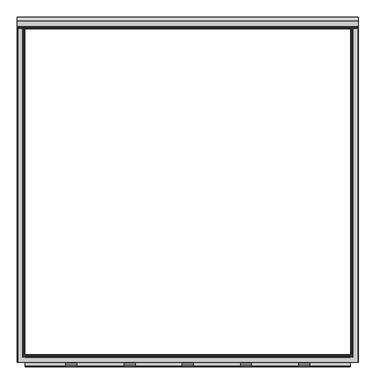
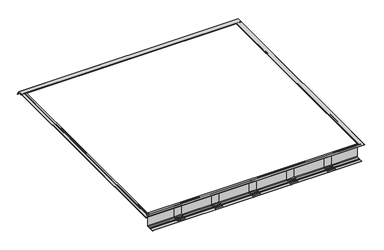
"""IFC4 building model written with IfcOpenShell, lengths in millimetres: fastener geometry."""

from ifc_helpers import new_model, si_unit, point, frame, frame_2d, origin, place, context, project, spatial, polyline, circle_curve, ellipse_curve, trimmed, segment, composite_curve, outline, extrude, source, transform, mapped, element, save
from ifc_brep_helpers import plane_surface, cylinder_surface, revolved_surface, advanced_brep


def fastener_7d932c26(model_context):
    return source(origin(), model_context, "Body", "SolidModel", [
        extrude(outline(composite_curve([segment(trimmed(circle_curve(frame_2d((-1145.5700599, -157.3625171)), 7.5509517), [point((-1138.0191082, -157.3625171))], [point((-1145.5700599, -164.9134688))], False, "CARTESIAN"), True, "CONTINUOUS"), segment(polyline([(-1145.5700599, -164.9134688), (-1177.5500422, -164.9134688)]), True, "CONTINUOUS"), segment(trimmed(circle_curve(frame_2d((-1177.2863618, -163.8574024)), 1.0884868), [point((-1177.5500422, -164.9134688))], [point((-1178.0560382, -163.0877259))], False, "CARTESIAN"), True, "CONTINUOUS"), segment(polyline([(-1178.0560382, -163.0877259), (-1176.7465916, -161.7782793)]), True, "CONTINUOUS"), segment(trimmed(circle_curve(frame_2d((-1177.516268, -161.0086029)), 1.0884868), [point((-1176.7465916, -161.7782793))], [point((-1176.911598, -160.1035184))], True, "CARTESIAN"), True, "CONTINUOUS"), segment(polyline([(-1176.911598, -160.1035184), (-1186.4250513, -160.1035184)]), True, "CONTINUOUS"), segment(trimmed(circle_curve(frame_2d((-1185.8203813, -161.0086029)), 1.0884868), [point((-1186.4250513, -160.1035184))], [point((-1186.5900578, -161.7782793))], True, "CARTESIAN"), True, "CONTINUOUS"), segment(polyline([(-1186.5900578, -161.7782793), (-1185.2806111, -163.0877259)]), True, "CONTINUOUS"), segment(trimmed(circle_curve(frame_2d((-1186.0502876, -163.8574024)), 1.0884868), [point((-1185.2806111, -163.0877259))], [point((-1185.7866071, -164.9134688))], False, "CARTESIAN"), True, "CONTINUOUS"), segment(polyline([(-1185.7866071, -164.9134688), (-1219.2, -164.9134688)]), True, "CONTINUOUS"), segment(trimmed(circle_curve(frame_2d((-1211.6858077, -164.181073)), 7.5498006), [point((-1219.2, -164.9134688))], [point((-1211.6858077, -156.6312724))], False, "CARTESIAN"), True, "CONTINUOUS"), segment(polyline([(-1211.6858077, -156.6312724), (-1195.9627839, -156.6312724)]), True, "CONTINUOUS"), segment(trimmed(circle_curve(frame_2d((-1195.8562589, -152.6549)), 3.977799), [point((-1195.9627839, -156.6312724))], [point((-1193.0435303, -155.4676287))], True, "CARTESIAN"), True, "CONTINUOUS"), segment(polyline([(-1193.0435303, -155.4676287), (-1190.9210407, -153.3451392)]), True, "CONTINUOUS"), segment(trimmed(circle_curve(frame_2d((-1188.1083121, -156.1578678)), 3.977799), [point((-1190.9210407, -153.3451392))], [point((-1188.0183247, -152.1810868))], False, "CARTESIAN"), True, "CONTINUOUS"), segment(polyline([(-1188.0183247, -152.1810868), (-1175.3183247, -152.1810868)]), True, "CONTINUOUS"), segment(trimmed(circle_curve(frame_2d((-1175.2283372, -156.1578678)), 3.977799), [point((-1175.3183247, -152.1810868))], [point((-1172.4156086, -153.3451392))], False, "CARTESIAN"), True, "CONTINUOUS"), segment(polyline([(-1172.4156086, -153.3451392), (-1170.2931191, -155.4676287)]), True, "CONTINUOUS"), segment(trimmed(circle_curve(frame_2d((-1167.4803904, -152.6549)), 3.977799), [point((-1170.2931191, -155.4676287))], [point((-1167.3738655, -156.6312724))], True, "CARTESIAN"), True, "CONTINUOUS"), segment(polyline([(-1167.3738655, -156.6312724), (-1150.9842926, -156.6312724)]), True, "CONTINUOUS"), segment(trimmed(circle_curve(frame_2d((-1150.2040874, -150.8486898)), 5.8349791), [point((-1150.9842926, -156.6312724))], [point((-1144.3691082, -150.8486898))], True, "CARTESIAN"), True, "CONTINUOUS"), segment(polyline([(-1144.3691082, -150.8486898), (-1144.3691082, -41.4750171), (-1138.0191082, -41.4750171), (-1138.0191082, -157.3625171)]), True, "CONTINUOUS")], self_intersect=False)), frame((774.7, 0.0, 0.0), z_axis=(1.0, 0.0, 0.0), x_axis=(0.0, 1.0, 0.0)), (0.0, 0.0, 1.0), 76.2),
        extrude(outline(composite_curve([segment(trimmed(circle_curve(frame_2d((-1145.5700599, -157.3625171)), 7.5509517), [point((-1138.0191082, -157.3625171))], [point((-1145.5700599, -164.9134688))], False, "CARTESIAN"), True, "CONTINUOUS"), segment(polyline([(-1145.5700599, -164.9134688), (-1177.5500422, -164.9134688)]), True, "CONTINUOUS"), segment(trimmed(circle_curve(frame_2d((-1177.2863618, -163.8574024)), 1.0884868), [point((-1177.5500422, -164.9134688))], [point((-1178.0560382, -163.0877259))], False, "CARTESIAN"), True, "CONTINUOUS"), segment(polyline([(-1178.0560382, -163.0877259), (-1176.7465916, -161.7782793)]), True, "CONTINUOUS"), segment(trimmed(circle_curve(frame_2d((-1177.516268, -161.0086029)), 1.0884868), [point((-1176.7465916, -161.7782793))], [point((-1176.911598, -160.1035184))], True, "CARTESIAN"), True, "CONTINUOUS"), segment(polyline([(-1176.911598, -160.1035184), (-1186.4250513, -160.1035184)]), True, "CONTINUOUS"), segment(trimmed(circle_curve(frame_2d((-1185.8203813, -161.0086029)), 1.0884868), [point((-1186.4250513, -160.1035184))], [point((-1186.5900578, -161.7782793))], True, "CARTESIAN"), True, "CONTINUOUS"), segment(polyline([(-1186.5900578, -161.7782793), (-1185.2806111, -163.0877259)]), True, "CONTINUOUS"), segment(trimmed(circle_curve(frame_2d((-1186.0502876, -163.8574024)), 1.0884868), [point((-1185.2806111, -163.0877259))], [point((-1185.7866071, -164.9134688))], False, "CARTESIAN"), True, "CONTINUOUS"), segment(polyline([(-1185.7866071, -164.9134688), (-1219.2, -164.9134688)]), True, "CONTINUOUS"), segment(trimmed(circle_curve(frame_2d((-1211.6858077, -164.181073)), 7.5498006), [point((-1219.2, -164.9134688))], [point((-1211.6858077, -156.6312724))], False, "CARTESIAN"), True, "CONTINUOUS"), segment(polyline([(-1211.6858077, -156.6312724), (-1195.9627839, -156.6312724)]), True, "CONTINUOUS"), segment(trimmed(circle_curve(frame_2d((-1195.8562589, -152.6549)), 3.977799), [point((-1195.9627839, -156.6312724))], [point((-1193.0435303, -155.4676287))], True, "CARTESIAN"), True, "CONTINUOUS"), segment(polyline([(-1193.0435303, -155.4676287), (-1190.9210407, -153.3451392)]), True, "CONTINUOUS"), segment(trimmed(circle_curve(frame_2d((-1188.1083121, -156.1578678)), 3.977799), [point((-1190.9210407, -153.3451392))], [point((-1188.0183247, -152.1810868))], False, "CARTESIAN"), True, "CONTINUOUS"), segment(polyline([(-1188.0183247, -152.1810868), (-1175.3183247, -152.1810868)]), True, "CONTINUOUS"), segment(trimmed(circle_curve(frame_2d((-1175.2283372, -156.1578678)), 3.977799), [point((-1175.3183247, -152.1810868))], [point((-1172.4156086, -153.3451392))], False, "CARTESIAN"), True, "CONTINUOUS"), segment(polyline([(-1172.4156086, -153.3451392), (-1170.2931191, -155.4676287)]), True, "CONTINUOUS"), segment(trimmed(circle_curve(frame_2d((-1167.4803904, -152.6549)), 3.977799), [point((-1170.2931191, -155.4676287))], [point((-1167.3738655, -156.6312724))], True, "CARTESIAN"), True, "CONTINUOUS"), segment(polyline([(-1167.3738655, -156.6312724), (-1150.9842926, -156.6312724)]), True, "CONTINUOUS"), segment(trimmed(circle_curve(frame_2d((-1150.2040874, -150.8486898)), 5.8349791), [point((-1150.9842926, -156.6312724))], [point((-1144.3691082, -150.8486898))], True, "CARTESIAN"), True, "CONTINUOUS"), segment(polyline([(-1144.3691082, -150.8486898), (-1144.3691082, -41.4750171), (-1138.0191082, -41.4750171), (-1138.0191082, -157.3625171)]), True, "CONTINUOUS")], self_intersect=False)), frame((-850.9, 0.0, 0.0), z_axis=(1.0, 0.0, 0.0), x_axis=(0.0, 1.0, 0.0)), (0.0, 0.0, 1.0), 76.2),
        extrude(outline(composite_curve([segment(trimmed(circle_curve(frame_2d((-1145.5700599, -157.3625171)), 7.5509517), [point((-1138.0191082, -157.3625171))], [point((-1145.5700599, -164.9134688))], False, "CARTESIAN"), True, "CONTINUOUS"), segment(polyline([(-1145.5700599, -164.9134688), (-1177.5500422, -164.9134688)]), True, "CONTINUOUS"), segment(trimmed(circle_curve(frame_2d((-1177.2863618, -163.8574024)), 1.0884868), [point((-1177.5500422, -164.9134688))], [point((-1178.0560382, -163.0877259))], False, "CARTESIAN"), True, "CONTINUOUS"), segment(polyline([(-1178.0560382, -163.0877259), (-1176.7465916, -161.7782793)]), True, "CONTINUOUS"), segment(trimmed(circle_curve(frame_2d((-1177.516268, -161.0086029)), 1.0884868), [point((-1176.7465916, -161.7782793))], [point((-1176.911598, -160.1035184))], True, "CARTESIAN"), True, "CONTINUOUS"), segment(polyline([(-1176.911598, -160.1035184), (-1186.4250513, -160.1035184)]), True, "CONTINUOUS"), segment(trimmed(circle_curve(frame_2d((-1185.8203813, -161.0086029)), 1.0884868), [point((-1186.4250513, -160.1035184))], [point((-1186.5900578, -161.7782793))], True, "CARTESIAN"), True, "CONTINUOUS"), segment(polyline([(-1186.5900578, -161.7782793), (-1185.2806111, -163.0877259)]), True, "CONTINUOUS"), segment(trimmed(circle_curve(frame_2d((-1186.0502876, -163.8574024)), 1.0884868), [point((-1185.2806111, -163.0877259))], [point((-1185.7866071, -164.9134688))], False, "CARTESIAN"), True, "CONTINUOUS"), segment(polyline([(-1185.7866071, -164.9134688), (-1219.2, -164.9134688)]), True, "CONTINUOUS"), segment(trimmed(circle_curve(frame_2d((-1211.6858077, -164.181073)), 7.5498006), [point((-1219.2, -164.9134688))], [point((-1211.6858077, -156.6312724))], False, "CARTESIAN"), True, "CONTINUOUS"), segment(polyline([(-1211.6858077, -156.6312724), (-1195.9627839, -156.6312724)]), True, "CONTINUOUS"), segment(trimmed(circle_curve(frame_2d((-1195.8562589, -152.6549)), 3.977799), [point((-1195.9627839, -156.6312724))], [point((-1193.0435303, -155.4676287))], True, "CARTESIAN"), True, "CONTINUOUS"), segment(polyline([(-1193.0435303, -155.4676287), (-1190.9210407, -153.3451392)]), True, "CONTINUOUS"), segment(trimmed(circle_curve(frame_2d((-1188.1083121, -156.1578678)), 3.977799), [point((-1190.9210407, -153.3451392))], [point((-1188.0183247, -152.1810868))], False, "CARTESIAN"), True, "CONTINUOUS"), segment(polyline([(-1188.0183247, -152.1810868), (-1175.3183247, -152.1810868)]), True, "CONTINUOUS"), segment(trimmed(circle_curve(frame_2d((-1175.2283372, -156.1578678)), 3.977799), [point((-1175.3183247, -152.1810868))], [point((-1172.4156086, -153.3451392))], False, "CARTESIAN"), True, "CONTINUOUS"), segment(polyline([(-1172.4156086, -153.3451392), (-1170.2931191, -155.4676287)]), True, "CONTINUOUS"), segment(trimmed(circle_curve(frame_2d((-1167.4803904, -152.6549)), 3.977799), [point((-1170.2931191, -155.4676287))], [point((-1167.3738655, -156.6312724))], True, "CARTESIAN"), True, "CONTINUOUS"), segment(polyline([(-1167.3738655, -156.6312724), (-1150.9842926, -156.6312724)]), True, "CONTINUOUS"), segment(trimmed(circle_curve(frame_2d((-1150.2040874, -150.8486898)), 5.8349791), [point((-1150.9842926, -156.6312724))], [point((-1144.3691082, -150.8486898))], True, "CARTESIAN"), True, "CONTINUOUS"), segment(polyline([(-1144.3691082, -150.8486898), (-1144.3691082, -41.4750171), (-1138.0191082, -41.4750171), (-1138.0191082, -157.3625171)]), True, "CONTINUOUS")], self_intersect=False)), frame((-444.5, 0.0, 0.0), z_axis=(1.0, 0.0, 0.0), x_axis=(0.0, 1.0, 0.0)), (0.0, 0.0, 1.0), 76.2),
        extrude(outline(composite_curve([segment(trimmed(circle_curve(frame_2d((-1145.5700599, -157.3625171)), 7.5509517), [point((-1138.0191082, -157.3625171))], [point((-1145.5700599, -164.9134688))], False, "CARTESIAN"), True, "CONTINUOUS"), segment(polyline([(-1145.5700599, -164.9134688), (-1177.5500422, -164.9134688)]), True, "CONTINUOUS"), segment(trimmed(circle_curve(frame_2d((-1177.2863618, -163.8574024)), 1.0884868), [point((-1177.5500422, -164.9134688))], [point((-1178.0560382, -163.0877259))], False, "CARTESIAN"), True, "CONTINUOUS"), segment(polyline([(-1178.0560382, -163.0877259), (-1176.7465916, -161.7782793)]), True, "CONTINUOUS"), segment(trimmed(circle_curve(frame_2d((-1177.516268, -161.0086029)), 1.0884868), [point((-1176.7465916, -161.7782793))], [point((-1176.911598, -160.1035184))], True, "CARTESIAN"), True, "CONTINUOUS"), segment(polyline([(-1176.911598, -160.1035184), (-1186.4250513, -160.1035184)]), True, "CONTINUOUS"), segment(trimmed(circle_curve(frame_2d((-1185.8203813, -161.0086029)), 1.0884868), [point((-1186.4250513, -160.1035184))], [point((-1186.5900578, -161.7782793))], True, "CARTESIAN"), True, "CONTINUOUS"), segment(polyline([(-1186.5900578, -161.7782793), (-1185.2806111, -163.0877259)]), True, "CONTINUOUS"), segment(trimmed(circle_curve(frame_2d((-1186.0502876, -163.8574024)), 1.0884868), [point((-1185.2806111, -163.0877259))], [point((-1185.7866071, -164.9134688))], False, "CARTESIAN"), True, "CONTINUOUS"), segment(polyline([(-1185.7866071, -164.9134688), (-1219.2, -164.9134688)]), True, "CONTINUOUS"), segment(trimmed(circle_curve(frame_2d((-1211.6858077, -164.181073)), 7.5498006), [point((-1219.2, -164.9134688))], [point((-1211.6858077, -156.6312724))], False, "CARTESIAN"), True, "CONTINUOUS"), segment(polyline([(-1211.6858077, -156.6312724), (-1195.9627839, -156.6312724)]), True, "CONTINUOUS"), segment(trimmed(circle_curve(frame_2d((-1195.8562589, -152.6549)), 3.977799), [point((-1195.9627839, -156.6312724))], [point((-1193.0435303, -155.4676287))], True, "CARTESIAN"), True, "CONTINUOUS"), segment(polyline([(-1193.0435303, -155.4676287), (-1190.9210407, -153.3451392)]), True, "CONTINUOUS"), segment(trimmed(circle_curve(frame_2d((-1188.1083121, -156.1578678)), 3.977799), [point((-1190.9210407, -153.3451392))], [point((-1188.0183247, -152.1810868))], False, "CARTESIAN"), True, "CONTINUOUS"), segment(polyline([(-1188.0183247, -152.1810868), (-1175.3183247, -152.1810868)]), True, "CONTINUOUS"), segment(trimmed(circle_curve(frame_2d((-1175.2283372, -156.1578678)), 3.977799), [point((-1175.3183247, -152.1810868))], [point((-1172.4156086, -153.3451392))], False, "CARTESIAN"), True, "CONTINUOUS"), segment(polyline([(-1172.4156086, -153.3451392), (-1170.2931191, -155.4676287)]), True, "CONTINUOUS"), segment(trimmed(circle_curve(frame_2d((-1167.4803904, -152.6549)), 3.977799), [point((-1170.2931191, -155.4676287))], [point((-1167.3738655, -156.6312724))], True, "CARTESIAN"), True, "CONTINUOUS"), segment(polyline([(-1167.3738655, -156.6312724), (-1150.9842926, -156.6312724)]), True, "CONTINUOUS"), segment(trimmed(circle_curve(frame_2d((-1150.2040874, -150.8486898)), 5.8349791), [point((-1150.9842926, -156.6312724))], [point((-1144.3691082, -150.8486898))], True, "CARTESIAN"), True, "CONTINUOUS"), segment(polyline([(-1144.3691082, -150.8486898), (-1144.3691082, -41.4750171), (-1138.0191082, -41.4750171), (-1138.0191082, -157.3625171)]), True, "CONTINUOUS")], self_intersect=False)), frame((368.3, 0.0, 0.0), z_axis=(1.0, 0.0, 0.0), x_axis=(0.0, 1.0, 0.0)), (0.0, 0.0, 1.0), 76.2),
        extrude(outline(composite_curve([segment(trimmed(circle_curve(frame_2d((-1145.5700599, -157.3625171)), 7.5509517), [point((-1138.0191082, -157.3625171))], [point((-1145.5700599, -164.9134688))], False, "CARTESIAN"), True, "CONTINUOUS"), segment(polyline([(-1145.5700599, -164.9134688), (-1177.5500422, -164.9134688)]), True, "CONTINUOUS"), segment(trimmed(circle_curve(frame_2d((-1177.2863618, -163.8574024)), 1.0884868), [point((-1177.5500422, -164.9134688))], [point((-1178.0560382, -163.0877259))], False, "CARTESIAN"), True, "CONTINUOUS"), segment(polyline([(-1178.0560382, -163.0877259), (-1176.7465916, -161.7782793)]), True, "CONTINUOUS"), segment(trimmed(circle_curve(frame_2d((-1177.516268, -161.0086029)), 1.0884868), [point((-1176.7465916, -161.7782793))], [point((-1176.911598, -160.1035184))], True, "CARTESIAN"), True, "CONTINUOUS"), segment(polyline([(-1176.911598, -160.1035184), (-1186.4250513, -160.1035184)]), True, "CONTINUOUS"), segment(trimmed(circle_curve(frame_2d((-1185.8203813, -161.0086029)), 1.0884868), [point((-1186.4250513, -160.1035184))], [point((-1186.5900578, -161.7782793))], True, "CARTESIAN"), True, "CONTINUOUS"), segment(polyline([(-1186.5900578, -161.7782793), (-1185.2806111, -163.0877259)]), True, "CONTINUOUS"), segment(trimmed(circle_curve(frame_2d((-1186.0502876, -163.8574024)), 1.0884868), [point((-1185.2806111, -163.0877259))], [point((-1185.7866071, -164.9134688))], False, "CARTESIAN"), True, "CONTINUOUS"), segment(polyline([(-1185.7866071, -164.9134688), (-1219.2, -164.9134688)]), True, "CONTINUOUS"), segment(trimmed(circle_curve(frame_2d((-1211.6858077, -164.181073)), 7.5498006), [point((-1219.2, -164.9134688))], [point((-1211.6858077, -156.6312724))], False, "CARTESIAN"), True, "CONTINUOUS"), segment(polyline([(-1211.6858077, -156.6312724), (-1195.9627839, -156.6312724)]), True, "CONTINUOUS"), segment(trimmed(circle_curve(frame_2d((-1195.8562589, -152.6549)), 3.977799), [point((-1195.9627839, -156.6312724))], [point((-1193.0435303, -155.4676287))], True, "CARTESIAN"), True, "CONTINUOUS"), segment(polyline([(-1193.0435303, -155.4676287), (-1190.9210407, -153.3451392)]), True, "CONTINUOUS"), segment(trimmed(circle_curve(frame_2d((-1188.1083121, -156.1578678)), 3.977799), [point((-1190.9210407, -153.3451392))], [point((-1188.0183247, -152.1810868))], False, "CARTESIAN"), True, "CONTINUOUS"), segment(polyline([(-1188.0183247, -152.1810868), (-1175.3183247, -152.1810868)]), True, "CONTINUOUS"), segment(trimmed(circle_curve(frame_2d((-1175.2283372, -156.1578678)), 3.977799), [point((-1175.3183247, -152.1810868))], [point((-1172.4156086, -153.3451392))], False, "CARTESIAN"), True, "CONTINUOUS"), segment(polyline([(-1172.4156086, -153.3451392), (-1170.2931191, -155.4676287)]), True, "CONTINUOUS"), segment(trimmed(circle_curve(frame_2d((-1167.4803904, -152.6549)), 3.977799), [point((-1170.2931191, -155.4676287))], [point((-1167.3738655, -156.6312724))], True, "CARTESIAN"), True, "CONTINUOUS"), segment(polyline([(-1167.3738655, -156.6312724), (-1150.9842926, -156.6312724)]), True, "CONTINUOUS"), segment(trimmed(circle_curve(frame_2d((-1150.2040874, -150.8486898)), 5.8349791), [point((-1150.9842926, -156.6312724))], [point((-1144.3691082, -150.8486898))], True, "CARTESIAN"), True, "CONTINUOUS"), segment(polyline([(-1144.3691082, -150.8486898), (-1144.3691082, -41.4750171), (-1138.0191082, -41.4750171), (-1138.0191082, -157.3625171)]), True, "CONTINUOUS")], self_intersect=False)), frame((-38.1, 0.0, 0.0), z_axis=(1.0, 0.0, 0.0), x_axis=(0.0, 1.0, 0.0)), (0.0, 0.0, 1.0), 76.2),
        extrude(outline(composite_curve([segment(polyline([(-1135.3165, -15.1804688), (-1135.3165, -167.5804688), (-1217.8665, -167.5804688)]), True, "CONTINUOUS"), segment(trimmed(circle_curve(frame_2d((-1217.8665, -166.2469688)), 1.3335), [point((-1217.8665, -167.5804688))], [point((-1217.8665, -164.9134688))], False, "CARTESIAN"), True, "CONTINUOUS"), segment(polyline([(-1217.8665, -164.9134688), (-1185.7509989, -164.9134688)]), True, "CONTINUOUS"), segment(trimmed(circle_curve(frame_2d((-1186.0146793, -163.8574024)), 1.0884868), [point((-1185.7509989, -164.9134688))], [point((-1185.2450029, -163.0877259))], True, "CARTESIAN"), True, "CONTINUOUS"), segment(polyline([(-1185.2450029, -163.0877259), (-1186.5544495, -161.7782793)]), True, "CONTINUOUS"), segment(trimmed(circle_curve(frame_2d((-1185.7847731, -161.0086029)), 1.0884868), [point((-1186.5544495, -161.7782793))], [point((-1186.389443, -160.1035184))], False, "CARTESIAN"), True, "CONTINUOUS"), segment(polyline([(-1186.389443, -160.1035184), (-1176.8759898, -160.1035184)]), True, "CONTINUOUS"), segment(trimmed(circle_curve(frame_2d((-1177.4806597, -161.0086029)), 1.0884868), [point((-1176.8759898, -160.1035184))], [point((-1176.7109833, -161.7782793))], False, "CARTESIAN"), True, "CONTINUOUS"), segment(polyline([(-1176.7109833, -161.7782793), (-1178.0204299, -163.0877259)]), True, "CONTINUOUS"), segment(trimmed(circle_curve(frame_2d((-1177.2507535, -163.8574024)), 1.0884868), [point((-1178.0204299, -163.0877259))], [point((-1177.5144339, -164.9134688))], True, "CARTESIAN"), True, "CONTINUOUS"), segment(polyline([(-1177.5144339, -164.9134688), (-1145.5344517, -164.9134688)]), True, "CONTINUOUS"), segment(trimmed(circle_curve(frame_2d((-1145.5344517, -157.3625171)), 7.5509517), [point((-1145.5344517, -164.9134688))], [point((-1137.9835, -157.3625171))], True, "CARTESIAN"), True, "CONTINUOUS"), segment(polyline([(-1137.9835, -157.3625171), (-1137.9835, -21.87801), (-1156.2117258, -21.87801), (-1156.2117258, -15.1804688), (-1152.1178999, -15.1804688)]), True, "CONTINUOUS"), segment(trimmed(circle_curve(frame_2d((-1152.8274757, -16.2725079)), 1.3023238), [point((-1152.1178999, -15.1804688))], [point((-1151.9131963, -17.1999455))], False, "CARTESIAN"), True, "CONTINUOUS"), segment(polyline([(-1151.9131963, -17.1999455), (-1152.9649499, -18.2679836)]), True, "CONTINUOUS"), segment(trimmed(circle_curve(frame_2d((-1152.5091166, -18.6293281)), 0.5816819), [point((-1152.9649499, -18.2679836))], [point((-1152.5091166, -19.21101))], True, "CARTESIAN"), True, "CONTINUOUS"), segment(polyline([(-1152.5091166, -19.21101), (-1140.8594568, -19.21101)]), True, "CONTINUOUS"), segment(trimmed(circle_curve(frame_2d((-1140.8594568, -18.6130003)), 0.5980097), [point((-1140.8594568, -19.21101))], [point((-1140.3710112, -18.2679836))], True, "CARTESIAN"), True, "CONTINUOUS"), segment(polyline([(-1140.3710112, -18.2679836), (-1141.460117, -17.1999455)]), True, "CONTINUOUS"), segment(trimmed(circle_curve(frame_2d((-1140.5022273, -16.284676)), 1.3248664), [point((-1141.460117, -17.1999455))], [point((-1141.2343456, -15.1804688))], False, "CARTESIAN"), True, "CONTINUOUS"), segment(polyline([(-1141.2343456, -15.1804688), (-1135.3165, -15.1804688)]), True, "CONTINUOUS")], self_intersect=False)), frame((-1135.3165, 0.0, 0.0), z_axis=(1.0, 0.0, 0.0), x_axis=(0.0, 1.0, 0.0)), (0.0, 0.0, 1.0), 2270.633),
        advanced_brep(
        [(-1189.1053092, 1141.2343456, -15.1685625), (-1189.1053092, 1135.3165, -15.1685625), (-1189.1053092, 1135.3165, -13.8350625), (-1189.1053092, 1135.3165, -12.5015625), (-1189.1053092, 1190.6451024, -12.5015625), (-1189.1053092, 1217.7515464, -59.4513008), (-1189.1053092, 1215.4418567, -60.7848008), (-1189.1053092, 1189.1053092, -15.1685625), (-1189.1053092, 1161.8308783, -15.1685625), (-1189.1053092, 1159.573508, -17.4259327), (-1189.1053092, 1159.573508, -26.7633474), (-1189.1053092, 1149.6719492, -26.7633474), (-1189.1053092, 1149.6719492, -24.7662067), (-1189.1053092, 1150.5032605, -24.7662067), (-1189.1053092, 1151.5117177, -23.7577495), (-1189.1053092, 1151.5117177, -21.8661038), (-1189.1053092, 1156.2117258, -21.8661038), (-1189.1053092, 1156.2117258, -15.1685625), (-1189.1053092, 1152.1178999, -15.1685625), (-1189.1053092, 1151.9131963, -17.2095918), (-1189.1053092, 1152.9812344, -18.2776299), (-1189.1053092, 1152.5091166, -19.1991038), (-1189.1053092, 1140.8431289, -19.1991038), (-1189.1053092, 1140.3710112, -18.2776299), (-1189.1053092, 1141.4390493, -17.2095918), (1189.1053092, 1141.2343456, -15.1685625), (1189.1053092, 1141.4390493, -17.2095918), (1189.1053092, 1140.3710112, -18.2776299), (1189.1053092, 1140.8431289, -19.1991038), (1189.1053092, 1152.5091166, -19.1991038), (1189.1053092, 1152.9812344, -18.2776299), (1189.1053092, 1151.9131963, -17.2095918), (1189.1053092, 1152.1178999, -15.1685625), (1189.1053092, 1156.2117258, -15.1685625), (1189.1053092, 1156.2117258, -21.8661038), (1189.1053092, 1151.5117177, -21.8661038), (1189.1053092, 1151.5117177, -23.7577495), (1189.1053092, 1150.5032605, -24.7662067), (1189.1053092, 1149.6719492, -24.7662067), (1189.1053092, 1149.6719492, -26.7633474), (1189.1053092, 1159.573508, -26.7633474), (1189.1053092, 1159.573508, -17.4259327), (1189.1053092, 1161.8308783, -15.1685625), (1189.1053092, 1189.1053092, -15.1685625), (1189.1053092, 1215.4418567, -60.7848008), (1189.1053092, 1217.7515464, -59.4513008), (1189.1053092, 1190.6451024, -12.5015625), (1189.1053092, 1135.3165, -12.5015625), (1189.1053092, 1135.3165, -13.8350625), (1189.1053092, 1135.3165, -15.1685625), (1187.7718092, 1135.3165, -15.1685625), (1187.7718092, -1187.7718092, -15.1685625), (-1187.7718092, -1187.7718092, -15.1685625), (-1187.7718092, 1135.3165, -15.1685625), (1135.3165, 1135.3165, -15.1685625), (-1135.3165, 1135.3165, -15.1685625), (-1135.3165, -1135.3165, -15.1685625), (1135.3165, -1135.3165, -15.1685625), (-1141.2160631, 1135.3165, -15.1685625), (-1152.1361825, 1135.3165, -15.1685625), (-1152.1361825, -1152.1361825, -15.1685625), (1152.1361825, -1152.1361825, -15.1685625), (1152.1361825, 1135.3165, -15.1685625), (1141.2160631, 1135.3165, -15.1685625), (1141.2160631, -1141.2160631, -15.1685625), (-1141.2160631, -1141.2160631, -15.1685625), (-1156.2117258, 1135.3165, -15.1685625), (-1161.8308783, 1135.3165, -15.1685625), (-1161.8308783, -1161.8308783, -15.1685625), (1161.8308783, -1161.8308783, -15.1685625), (1161.8308783, 1135.3165, -15.1685625), (1156.2117258, 1135.3165, -15.1685625), (1156.2117258, -1156.2117258, -15.1685625), (-1156.2117258, -1156.2117258, -15.1685625), (-1187.7718092, 1135.3165, -12.5015625), (1187.7718092, 1135.3165, -12.5015625), (1135.3165, 1135.3165, -12.5015625), (-1135.3165, 1135.3165, -12.5015625), (-1187.7718092, -1187.7718092, -12.5015625), (1187.7718092, -1187.7718092, -12.5015625), (1135.3165, -1135.3165, -12.5015625), (-1135.3165, -1135.3165, -12.5015625), (-1141.4390493, 1135.3165, -17.221498), (-1140.3710112, 1135.3165, -18.2895361), (-1140.8431289, 1135.3165, -19.21101), (-1152.5091166, 1135.3165, -19.21101), (-1152.9812344, 1135.3165, -18.2895361), (-1151.9131963, 1135.3165, -17.221498), (-1156.2117258, 1135.3165, -21.87801), (-1151.5117177, 1135.3165, -21.87801), (-1151.5117177, 1135.3165, -23.7696558), (-1150.5032605, 1135.3165, -24.7781129), (-1149.6719492, 1135.3165, -24.7781129), (-1149.6719492, 1135.3165, -26.7633474), (-1159.573508, 1135.3165, -26.7633474), (-1159.573508, 1135.3165, -17.4259327), (-1141.4390493, -1141.4390493, -17.221498), (-1140.3710112, -1140.3710112, -18.2895361), (-1140.8431289, -1140.8431289, -19.21101), (1140.8431289, -1140.8431289, -19.21101), (1140.8431289, 1135.3165, -19.21101), (1152.5091166, 1135.3165, -19.21101), (1152.5091166, -1152.5091166, -19.21101), (-1152.5091166, -1152.5091166, -19.21101), (-1152.9812344, -1152.9812344, -18.2895361), (-1151.9131963, -1151.9131963, -17.221498), (-1156.2117258, -1156.2117258, -21.87801), (1156.2117258, -1156.2117258, -21.87801), (1156.2117258, 1135.3165, -21.87801), (1151.5117177, 1135.3165, -21.87801), (1151.5117177, -1151.5117177, -21.87801), (-1151.5117177, -1151.5117177, -21.87801), (-1151.5117177, -1151.5117177, -23.7696558), (-1150.5032605, -1150.5032605, -24.7781129), (1150.5032605, -1150.5032605, -24.7781129), (1150.5032605, 1135.3165, -24.7781129), (1149.6719492, 1135.3165, -24.7781129), (1149.6719492, -1149.6719492, -24.7781129), (-1149.6719492, -1149.6719492, -24.7781129), (-1149.6719492, -1149.6719492, -26.7633474), (1149.6719492, -1149.6719492, -26.7633474), (1149.6719492, 1135.3165, -26.7633474), (1159.573508, 1135.3165, -26.7633474), (1159.573508, -1159.573508, -26.7633474), (-1159.573508, -1159.573508, -26.7633474), (-1159.573508, -1159.573508, -17.4259327), (1141.4390493, -1141.4390493, -17.221498), (1140.3710112, -1140.3710112, -18.2895361), (1152.9812344, -1152.9812344, -18.2895361), (1151.9131963, -1151.9131963, -17.221498), (1151.5117177, -1151.5117177, -23.7696558), (1159.573508, -1159.573508, -17.4259327), (1140.3710112, 1135.3165, -18.2895361), (1141.4390493, 1135.3165, -17.221498), (1151.9131963, 1135.3165, -17.221498), (1152.9812344, 1135.3165, -18.2895361), (1159.573508, 1135.3165, -17.4259327), (1151.5117177, 1135.3165, -23.7696558)],
        [
            (0, 1),
            (1, 2),
            (2, 3),
            (3, 4),
            (4, 5),
            (5, 6),
            (6, 7),
            (7, 8),
            (8, 9, circle_curve(frame((-1189.1053092, 1161.8308783, -17.4259327), z_axis=(1.0, 0.0, 0.0), x_axis=(0.0, 1.0, 0.0)), 2.2573702)),
            (9, 10),
            (10, 11),
            (11, 12, circle_curve(frame((-1189.1053092, 1149.6719492, -25.764777), z_axis=(-1.0, 0.0, 0.0), x_axis=(0.0, 1.0, 0.0)), 0.9985703)),
            (12, 13),
            (13, 14, circle_curve(frame((-1189.1053092, 1150.5032605, -23.7577495), z_axis=(1.0, 0.0, 0.0), x_axis=(0.0, 1.0, 0.0)), 1.0084572)),
            (14, 15),
            (15, 16),
            (16, 17),
            (17, 18),
            (18, 19, circle_curve(frame((-1189.1053092, 1152.8500183, -16.2727698), z_axis=(1.0, 0.0, 0.0), x_axis=(0.0, 1.0, 0.0)), 1.3248664)),
            (19, 20),
            (20, 21, circle_curve(frame((-1189.1053092, 1152.5091166, -18.6174219), z_axis=(-1.0, 0.0, 0.0), x_axis=(0.0, 1.0, 0.0)), 0.5816819)),
            (21, 22),
            (22, 23, circle_curve(frame((-1189.1053092, 1140.8431289, -18.6174219), z_axis=(-1.0, 0.0, 0.0), x_axis=(0.0, 1.0, 0.0)), 0.5816819)),
            (23, 24),
            (24, 0, circle_curve(frame((-1189.1053092, 1140.5022273, -16.2727698), z_axis=(1.0, 0.0, 0.0), x_axis=(0.0, 1.0, 0.0)), 1.3248664)),
            (25, 26, circle_curve(frame((1189.1053092, 1140.5022273, -16.2727698), z_axis=(-1.0, 0.0, 0.0), x_axis=(0.0, 1.0, 0.0)), 1.3248664)),
            (26, 27),
            (27, 28, circle_curve(frame((1189.1053092, 1140.8431289, -18.6174219), z_axis=(1.0, 0.0, 0.0), x_axis=(0.0, 1.0, 0.0)), 0.5816819)),
            (28, 29),
            (29, 30, circle_curve(frame((1189.1053092, 1152.5091166, -18.6174219), z_axis=(1.0, 0.0, 0.0), x_axis=(0.0, 1.0, 0.0)), 0.5816819)),
            (30, 31),
            (31, 32, circle_curve(frame((1189.1053092, 1152.8500183, -16.2727698), z_axis=(-1.0, 0.0, 0.0), x_axis=(0.0, 1.0, 0.0)), 1.3248664)),
            (32, 33),
            (33, 34),
            (34, 35),
            (35, 36),
            (36, 37, circle_curve(frame((1189.1053092, 1150.5032605, -23.7577495), z_axis=(-1.0, 0.0, 0.0), x_axis=(0.0, 1.0, 0.0)), 1.0084572)),
            (37, 38),
            (38, 39, circle_curve(frame((1189.1053092, 1149.6719492, -25.764777), z_axis=(1.0, 0.0, 0.0), x_axis=(0.0, 1.0, 0.0)), 0.9985703)),
            (39, 40),
            (40, 41),
            (41, 42, circle_curve(frame((1189.1053092, 1161.8308783, -17.4259327), z_axis=(-1.0, 0.0, 0.0), x_axis=(0.0, 1.0, 0.0)), 2.2573702)),
            (42, 43),
            (43, 44),
            (44, 45),
            (45, 46),
            (46, 47),
            (47, 48),
            (48, 49),
            (49, 25),
            (0, 25),
            (49, 50),
            (50, 51),
            (51, 52),
            (52, 53),
            (53, 1),
            (54, 55),
            (55, 56),
            (56, 57),
            (57, 54),
            (58, 59),
            (59, 60),
            (60, 61),
            (61, 62),
            (62, 63),
            (63, 64),
            (64, 65),
            (65, 58),
            (66, 67),
            (67, 68),
            (68, 69),
            (69, 70),
            (70, 71),
            (71, 72),
            (72, 73),
            (73, 66),
            (53, 2, circle_curve(frame((-1187.7718092, 1135.3165, -13.8350625), z_axis=(0.0, 1.0, 0.0), x_axis=(1.0, 0.0, 0.0)), 1.3335)),
            (2, 74, circle_curve(frame((-1187.7718092, 1135.3165, -13.8350625), z_axis=(0.0, 1.0, 0.0), x_axis=(1.0, 0.0, 0.0)), 1.3335)),
            (74, 3),
            (47, 75),
            (75, 48, circle_curve(frame((1187.7718092, 1135.3165, -13.8350625), z_axis=(0.0, 1.0, 0.0), x_axis=(-1.0, 0.0, 0.0)), 1.3335)),
            (48, 50, circle_curve(frame((1187.7718092, 1135.3165, -13.8350625), z_axis=(0.0, 1.0, 0.0), x_axis=(-1.0, 0.0, 0.0)), 1.3335)),
            (54, 76),
            (76, 77),
            (77, 55),
            (74, 78),
            (78, 79),
            (79, 75),
            (46, 4),
            (76, 80),
            (80, 81),
            (81, 77),
            (45, 5),
            (44, 6),
            (43, 7),
            (42, 8),
            (41, 9),
            (40, 10),
            (39, 11),
            (38, 12),
            (37, 13),
            (36, 14),
            (35, 15),
            (34, 16),
            (33, 17),
            (32, 18),
            (19, 31),
            (30, 20),
            (29, 21),
            (28, 22),
            (27, 23),
            (26, 24),
            (58, 82, circle_curve(frame((-1140.5022273, 1135.3165, -16.284676), z_axis=(0.0, -1.0, 0.0), x_axis=(1.0, 0.0, 0.0)), 1.3248664)),
            (82, 83),
            (83, 84, circle_curve(frame((-1140.8431289, 1135.3165, -18.6293281), z_axis=(0.0, 1.0, 0.0), x_axis=(1.0, 0.0, 0.0)), 0.5816819)),
            (84, 85),
            (85, 86, circle_curve(frame((-1152.5091166, 1135.3165, -18.6293281), z_axis=(0.0, 1.0, 0.0), x_axis=(1.0, 0.0, 0.0)), 0.5816819)),
            (86, 87),
            (87, 59, circle_curve(frame((-1152.8500183, 1135.3165, -16.284676), z_axis=(0.0, -1.0, 0.0), x_axis=(1.0, 0.0, 0.0)), 1.3248664)),
            (66, 88),
            (88, 89),
            (89, 90),
            (90, 91, circle_curve(frame((-1150.5032605, 1135.3165, -23.7696558), z_axis=(0.0, -1.0, 0.0), x_axis=(1.0, 0.0, 0.0)), 1.0084572)),
            (91, 92),
            (92, 93, circle_curve(frame((-1149.6719492, 1135.3165, -25.7707301), z_axis=(0.0, 1.0, 0.0), x_axis=(1.0, 0.0, 0.0)), 0.9926172)),
            (93, 94),
            (94, 95),
            (95, 67, circle_curve(frame((-1161.8308783, 1135.3165, -17.4259327), z_axis=(0.0, -1.0, 0.0), x_axis=(1.0, 0.0, 0.0)), 2.2573702)),
            (65, 96, ellipse_curve(frame((-1140.5022273, -1140.5022273, -16.284676), z_axis=(0.7071067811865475, -0.7071067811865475, 0.0), x_axis=(-0.7071067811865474, -0.7071067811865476, 0.0)), 1.873644, 1.3248664)),
            (96, 82),
            (96, 97),
            (97, 83),
            (97, 98, ellipse_curve(frame((-1140.8431289, -1140.8431289, -18.6293281), z_axis=(-0.7071067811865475, 0.7071067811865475, 0.0), x_axis=(0.7071067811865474, 0.7071067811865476, 0.0)), 0.8226224, 0.5816819)),
            (98, 84),
            (98, 99),
            (99, 100),
            (100, 101),
            (101, 102),
            (102, 103),
            (103, 85),
            (103, 104, ellipse_curve(frame((-1152.5091166, -1152.5091166, -18.6293281), z_axis=(-0.7071067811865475, 0.7071067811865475, 0.0), x_axis=(0.7071067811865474, 0.7071067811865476, 0.0)), 0.8226224, 0.5816819)),
            (104, 86),
            (104, 105),
            (105, 87),
            (105, 60, ellipse_curve(frame((-1152.8500183, -1152.8500183, -16.284676), z_axis=(0.7071067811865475, -0.7071067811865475, 0.0), x_axis=(-0.7071067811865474, -0.7071067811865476, 0.0)), 1.873644, 1.3248664)),
            (73, 106),
            (106, 88),
            (106, 107),
            (107, 108),
            (108, 109),
            (109, 110),
            (110, 111),
            (111, 89),
            (111, 112),
            (112, 90),
            (112, 113, ellipse_curve(frame((-1150.5032605, -1150.5032605, -23.7696558), z_axis=(0.7071067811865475, -0.7071067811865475, 0.0), x_axis=(-0.7071067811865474, -0.7071067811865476, 0.0)), 1.4261738, 1.0084572)),
            (113, 91),
            (113, 114),
            (114, 115),
            (115, 116),
            (116, 117),
            (117, 118),
            (118, 92),
            (118, 119, ellipse_curve(frame((-1149.6719492, -1149.6719492, -25.7707301), z_axis=(-0.7071067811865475, 0.7071067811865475, 0.0), x_axis=(0.7071067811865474, 0.7071067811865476, 0.0)), 1.4037727, 0.9926172)),
            (119, 93),
            (119, 120),
            (120, 121),
            (121, 122),
            (122, 123),
            (123, 124),
            (124, 94),
            (124, 125),
            (125, 95),
            (125, 68, ellipse_curve(frame((-1161.8308783, -1161.8308783, -17.4259327), z_axis=(0.7071067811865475, -0.7071067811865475, 0.0), x_axis=(-0.7071067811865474, -0.7071067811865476, 0.0)), 3.1924036, 2.2573702)),
            (52, 78, ellipse_curve(frame((-1187.7718092, -1187.7718092, -13.8350625), z_axis=(-0.7071067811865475, 0.7071067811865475, 0.0), x_axis=(0.7071067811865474, 0.7071067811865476, 0.0)), 1.8858538, 1.3335)),
            (81, 56),
            (64, 126, ellipse_curve(frame((1140.5022273, -1140.5022273, -16.284676), z_axis=(0.7071067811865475, 0.7071067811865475, 0.0), x_axis=(0.7071067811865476, -0.7071067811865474, 0.0)), 1.873644, 1.3248664)),
            (126, 96),
            (126, 127),
            (127, 97),
            (127, 99, ellipse_curve(frame((1140.8431289, -1140.8431289, -18.6293281), z_axis=(-0.7071067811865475, -0.7071067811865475, 0.0), x_axis=(-0.7071067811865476, 0.7071067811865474, 0.0)), 0.8226224, 0.5816819)),
            (102, 128, ellipse_curve(frame((1152.5091166, -1152.5091166, -18.6293281), z_axis=(-0.7071067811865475, -0.7071067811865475, 0.0), x_axis=(-0.7071067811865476, 0.7071067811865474, 0.0)), 0.8226224, 0.5816819)),
            (128, 104),
            (128, 129),
            (129, 105),
            (129, 61, ellipse_curve(frame((1152.8500183, -1152.8500183, -16.284676), z_axis=(0.7071067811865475, 0.7071067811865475, 0.0), x_axis=(0.7071067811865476, -0.7071067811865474, 0.0)), 1.873644, 1.3248664)),
            (72, 107),
            (110, 130),
            (130, 112),
            (130, 114, ellipse_curve(frame((1150.5032605, -1150.5032605, -23.7696558), z_axis=(0.7071067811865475, 0.7071067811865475, 0.0), x_axis=(0.7071067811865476, -0.7071067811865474, 0.0)), 1.4261738, 1.0084572)),
            (117, 120, ellipse_curve(frame((1149.6719492, -1149.6719492, -25.7707301), z_axis=(-0.7071067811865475, -0.7071067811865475, 0.0), x_axis=(-0.7071067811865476, 0.7071067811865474, 0.0)), 1.4037727, 0.9926172)),
            (123, 131),
            (131, 125),
            (131, 69, ellipse_curve(frame((1161.8308783, -1161.8308783, -17.4259327), z_axis=(0.7071067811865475, 0.7071067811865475, 0.0), x_axis=(0.7071067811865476, -0.7071067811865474, 0.0)), 3.1924036, 2.2573702)),
            (51, 79, ellipse_curve(frame((1187.7718092, -1187.7718092, -13.8350625), z_axis=(-0.7071067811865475, -0.7071067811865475, 0.0), x_axis=(-0.7071067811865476, 0.7071067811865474, 0.0)), 1.8858538, 1.3335)),
            (80, 57),
            (100, 132, circle_curve(frame((1140.8431289, 1135.3165, -18.6293281), z_axis=(0.0, 1.0, 0.0), x_axis=(-1.0, 0.0, 0.0)), 0.5816819)),
            (132, 133),
            (133, 63, circle_curve(frame((1140.5022273, 1135.3165, -16.284676), z_axis=(0.0, -1.0, 0.0), x_axis=(-1.0, 0.0, 0.0)), 1.3248664)),
            (62, 134, circle_curve(frame((1152.8500183, 1135.3165, -16.284676), z_axis=(0.0, -1.0, 0.0), x_axis=(-1.0, 0.0, 0.0)), 1.3248664)),
            (134, 135),
            (135, 101, circle_curve(frame((1152.5091166, 1135.3165, -18.6293281), z_axis=(0.0, 1.0, 0.0), x_axis=(-1.0, 0.0, 0.0)), 0.5816819)),
            (108, 71),
            (70, 136, circle_curve(frame((1161.8308783, 1135.3165, -17.4259327), z_axis=(0.0, -1.0, 0.0), x_axis=(-1.0, 0.0, 0.0)), 2.2573702)),
            (136, 122),
            (121, 116, circle_curve(frame((1149.6719492, 1135.3165, -25.7707301), z_axis=(0.0, 1.0, 0.0), x_axis=(-1.0, 0.0, 0.0)), 0.9926172)),
            (115, 137, circle_curve(frame((1150.5032605, 1135.3165, -23.7696558), z_axis=(0.0, -1.0, 0.0), x_axis=(-1.0, 0.0, 0.0)), 1.0084572)),
            (137, 109),
            (133, 126),
            (132, 127),
            (135, 128),
            (134, 129),
            (137, 130),
            (136, 131),
        ],
        [
            plane_surface(frame((-1189.1053092, 1219.2, 0.0), z_axis=(-1.0, 0.0, 0.0), x_axis=(0.0, 0.0, 1.0))),
            plane_surface(frame((1189.1053092, 1219.2, 0.0), z_axis=(1.0, 0.0, 0.0), x_axis=(0.0, 0.0, 1.0))),
            plane_surface(frame((-1189.1053092, 1141.2343456, -15.1685625), z_axis=(0.0, 0.0, -1.0), x_axis=(1.0, 0.0, 0.0))),
            plane_surface(frame((-1189.1053092, 1135.3165, -15.1685625), z_axis=(0.0, -1.0, 0.0), x_axis=(1.0, 0.0, 0.0))),
            plane_surface(frame((-1189.1053092, 1135.3165, -12.5015625), z_axis=(0.0, 0.0, 1.0), x_axis=(1.0, 0.0, 0.0))),
            plane_surface(frame((-1189.1053092, 1190.6451024, -12.5015625), z_axis=(0.0, 0.8660254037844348, 0.5000000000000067), x_axis=(1.0, 0.0, 0.0))),
            plane_surface(frame((-1189.1053092, 1217.7515464, -59.4513008), z_axis=(0.0, 0.4999999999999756, -0.8660254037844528), x_axis=(1.0, 0.0, 0.0))),
            plane_surface(frame((-1189.1053092, 1215.4418567, -60.7848008), z_axis=(0.0, -0.8660254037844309, -0.5000000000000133), x_axis=(1.0, 0.0, 0.0))),
            plane_surface(frame((-1189.1053092, 1189.1053092, -15.1685625), z_axis=(0.0, 0.0, -1.0), x_axis=(1.0, 0.0, 0.0))),
            revolved_surface(polyline([(1189.1053092, 1164.0882485, -17.4259327), (-1189.1053092, 1164.0882485, -17.4259327)]), (-1189.1053092, 1161.8308783, -17.4259327), (1.0, 0.0, 0.0)),
            plane_surface(frame((-1189.1053092, 1159.573508, -17.4259327), z_axis=(0.0, 1.0, 0.0), x_axis=(1.0, 0.0, 0.0))),
            plane_surface(frame((-1189.1053092, 1159.573508, -26.7633474), z_axis=(0.0, 0.0, -1.0), x_axis=(1.0, 0.0, 0.0))),
            cylinder_surface(frame((-1189.1053092, 1149.6719492, -25.764777), z_axis=(-1.0, 0.0, 0.0), x_axis=(0.0, 1.0, 0.0)), 0.9985703),
            plane_surface(frame((-1189.1053092, 1149.6719492, -24.7662067), z_axis=(0.0, 0.0, 1.0), x_axis=(1.0, 0.0, 0.0))),
            revolved_surface(polyline([(1189.1053092, 1151.5117177, -23.7577495), (-1189.1053092, 1151.5117177, -23.7577495)]), (-1189.1053092, 1150.5032605, -23.7577495), (1.0, 0.0, 0.0)),
            plane_surface(frame((-1189.1053092, 1151.5117177, -23.7577495), z_axis=(0.0, -1.0, 0.0), x_axis=(1.0, 0.0, 0.0))),
            plane_surface(frame((-1189.1053092, 1151.5117177, -21.8661038), z_axis=(0.0, 0.0, 1.0), x_axis=(1.0, 0.0, 0.0))),
            plane_surface(frame((-1189.1053092, 1156.2117258, -21.8661038), z_axis=(0.0, -1.0, 0.0), x_axis=(1.0, 0.0, 0.0))),
            plane_surface(frame((-1189.1053092, 1156.2117258, -15.1685625), z_axis=(0.0, 0.0, -1.0), x_axis=(1.0, 0.0, 0.0))),
            plane_surface(frame((-1189.1053092, 1151.9131963, -17.2095918), z_axis=(0.0, 0.7071067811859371, 0.7071067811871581), x_axis=(1.0, 0.0, 0.0))),
            cylinder_surface(frame((-1189.1053092, 1152.5091166, -18.6174219), z_axis=(-1.0, 0.0, 0.0), x_axis=(0.0, 1.0, 0.0)), 0.5816819),
            plane_surface(frame((-1189.1053092, 1152.5091166, -19.1991038), z_axis=(0.0, 0.0, -1.0), x_axis=(1.0, 0.0, 0.0))),
            cylinder_surface(frame((-1189.1053092, 1140.8431289, -18.6174219), z_axis=(-1.0, 0.0, 0.0), x_axis=(0.0, 1.0, 0.0)), 0.5816819),
            plane_surface(frame((-1189.1053092, 1140.3710112, -18.2776299), z_axis=(0.0, -0.7071067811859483, 0.7071067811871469), x_axis=(1.0, 0.0, 0.0))),
            revolved_surface(polyline([(1189.1053092, 1154.1748847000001, -16.2727698), (-1189.1053092, 1154.1748847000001, -16.2727698)]), (-1189.1053092, 1152.8500183, -16.2727698), (1.0, 0.0, 0.0)),
            revolved_surface(polyline([(1189.1053092, 1141.8270937, -16.2727698), (-1189.1053092, 1141.8270937, -16.2727698)]), (-1189.1053092, 1140.5022273, -16.2727698), (1.0, 0.0, 0.0)),
            plane_surface(frame((-1219.2, 1135.3165, 0.0), z_axis=(0.0, 1.0, 0.0), x_axis=(0.0, 0.0, 1.0))),
            revolved_surface(polyline([(-1139.1773609, -1141.8270936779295, -16.284676), (-1139.1773609, 1135.3165, -16.284676)]), (-1140.5022273, 1135.3165, -16.284676), (0.0, -1.0, 0.0)),
            plane_surface(frame((-1141.4390493, 1135.3165, -17.221498), z_axis=(0.7071067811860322, 0.0, 0.7071067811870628), x_axis=(0.0, -1.0, 0.0))),
            cylinder_surface(frame((-1140.8431289, 1135.3165, -18.6293281), z_axis=(0.0, 1.0, 0.0), x_axis=(1.0, 0.0, 0.0)), 0.5816819),
            plane_surface(frame((-1140.8431289, 1135.3165, -19.21101), z_axis=(0.0, 0.0, -1.0), x_axis=(0.0, -1.0, 0.0))),
            cylinder_surface(frame((-1152.5091166, 1135.3165, -18.6293281), z_axis=(0.0, 1.0, 0.0), x_axis=(1.0, 0.0, 0.0)), 0.5816819),
            plane_surface(frame((-1152.9812344, 1135.3165, -18.2895361), z_axis=(-0.7071067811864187, 0.0, 0.7071067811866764), x_axis=(0.0, -1.0, 0.0))),
            revolved_surface(polyline([(-1151.5251519, -1154.1748846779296, -16.284676), (-1151.5251519, 1135.3165, -16.284676)]), (-1152.8500183, 1135.3165, -16.284676), (0.0, -1.0, 0.0)),
            plane_surface(frame((-1156.2117258, 1135.3165, -15.1685625), z_axis=(1.0, 0.0, 0.0), x_axis=(0.0, -1.0, 0.0))),
            plane_surface(frame((-1156.2117258, 1135.3165, -21.87801), z_axis=(0.0, 0.0, 1.0), x_axis=(0.0, -1.0, 0.0))),
            plane_surface(frame((-1151.5117177, 1135.3165, -21.87801), z_axis=(1.0, 0.0, 0.0), x_axis=(0.0, -1.0, 0.0))),
            revolved_surface(polyline([(-1149.4948032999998, -1151.5117177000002, -23.7696558), (-1149.4948032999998, 1135.3165, -23.7696558)]), (-1150.5032605, 1135.3165, -23.7696558), (0.0, -1.0, 0.0)),
            plane_surface(frame((-1150.5032605, 1135.3165, -24.7781129), z_axis=(0.0, 0.0, 1.0), x_axis=(0.0, -1.0, 0.0))),
            cylinder_surface(frame((-1149.6719492, 1135.3165, -25.7707301), z_axis=(0.0, 1.0, 0.0), x_axis=(1.0, 0.0, 0.0)), 0.9926172),
            plane_surface(frame((-1149.6719492, 1135.3165, -26.7633474), z_axis=(0.0, 0.0, -1.0), x_axis=(0.0, -1.0, 0.0))),
            plane_surface(frame((-1159.573508, 1135.3165, -26.7633474), z_axis=(-1.0, 0.0, 0.0), x_axis=(0.0, -1.0, 0.0))),
            revolved_surface(polyline([(-1159.5735081, -1164.0882485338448, -17.4259327), (-1159.5735081, 1135.3165, -17.4259327)]), (-1161.8308783, 1135.3165, -17.4259327), (0.0, -1.0, 0.0)),
            cylinder_surface(frame((-1187.7718092, 1135.3165, -13.8350625), z_axis=(0.0, 1.0, 0.0), x_axis=(1.0, 0.0, 0.0)), 1.3335),
            plane_surface(frame((-1135.3165, 1135.3165, -12.5015625), z_axis=(1.0, 0.0, 0.0), x_axis=(0.0, -1.0, 0.0))),
            revolved_surface(polyline([(1141.8270936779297, -1139.1773609, -16.284676), (-1141.8270936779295, -1139.1773609, -16.284676)]), (-1219.2, -1140.5022273, -16.284676), (1.0, 0.0, 0.0)),
            plane_surface(frame((-1141.4390493, -1141.4390493, -17.221498), z_axis=(0.0, 0.7071067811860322, 0.7071067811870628), x_axis=(1.0, 0.0, 0.0))),
            cylinder_surface(frame((-1219.2, -1140.8431289, -18.6293281), z_axis=(-1.0, 0.0, 0.0), x_axis=(0.0, 1.0, 0.0)), 0.5816819),
            cylinder_surface(frame((-1219.2, -1152.5091166, -18.6293281), z_axis=(-1.0, 0.0, 0.0), x_axis=(0.0, 1.0, 0.0)), 0.5816819),
            plane_surface(frame((-1152.9812344, -1152.9812344, -18.2895361), z_axis=(0.0, -0.7071067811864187, 0.7071067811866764), x_axis=(1.0, 0.0, 0.0))),
            revolved_surface(polyline([(1154.1748846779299, -1151.5251519, -16.284676), (-1154.1748846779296, -1151.5251519, -16.284676)]), (-1219.2, -1152.8500183, -16.284676), (1.0, 0.0, 0.0)),
            plane_surface(frame((-1156.2117258, -1156.2117258, -15.1685625), z_axis=(0.0, 1.0, 0.0), x_axis=(1.0, 0.0, 0.0))),
            plane_surface(frame((-1151.5117177, -1151.5117177, -21.87801), z_axis=(0.0, 1.0, 0.0), x_axis=(1.0, 0.0, 0.0))),
            revolved_surface(polyline([(1151.5117177, -1149.4948032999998, -23.7696558), (-1151.5117177, -1149.4948032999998, -23.7696558)]), (-1219.2, -1150.5032605, -23.7696558), (1.0, 0.0, 0.0)),
            cylinder_surface(frame((-1219.2, -1149.6719492, -25.7707301), z_axis=(-1.0, 0.0, 0.0), x_axis=(0.0, 1.0, 0.0)), 0.9926172),
            plane_surface(frame((-1159.573508, -1159.573508, -26.7633474), z_axis=(0.0, -1.0, 0.0), x_axis=(1.0, 0.0, 0.0))),
            revolved_surface(polyline([(1164.0882485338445, -1159.5735081, -17.4259327), (-1164.0882485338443, -1159.5735081, -17.4259327)]), (-1219.2, -1161.8308783, -17.4259327), (1.0, 0.0, 0.0)),
            cylinder_surface(frame((-1219.2, -1187.7718092, -13.8350625), z_axis=(-1.0, 0.0, 0.0), x_axis=(0.0, 1.0, 0.0)), 1.3335),
            plane_surface(frame((-1135.3165, -1135.3165, -12.5015625), z_axis=(0.0, 1.0, 0.0), x_axis=(1.0, 0.0, 0.0))),
            plane_surface(frame((1219.2, 1135.3165, 0.0), z_axis=(0.0, 1.0, 0.0), x_axis=(0.0, 0.0, 1.0))),
            revolved_surface(polyline([(1139.1773609, 1135.3164999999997, -16.284676), (1139.1773609, -1141.8270936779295, -16.284676)]), (1140.5022273, -1219.2, -16.284676), (0.0, 1.0, 0.0)),
            plane_surface(frame((1141.4390493, -1141.4390493, -17.221498), z_axis=(-0.7071067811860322, 0.0, 0.7071067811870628), x_axis=(0.0, 1.0, 0.0))),
            cylinder_surface(frame((1140.8431289, -1219.2, -18.6293281), z_axis=(0.0, -1.0, 0.0), x_axis=(-1.0, 0.0, 0.0)), 0.5816819),
            cylinder_surface(frame((1152.5091166, -1219.2, -18.6293281), z_axis=(0.0, -1.0, 0.0), x_axis=(-1.0, 0.0, 0.0)), 0.5816819),
            plane_surface(frame((1152.9812344, -1152.9812344, -18.2895361), z_axis=(0.7071067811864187, 0.0, 0.7071067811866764), x_axis=(0.0, 1.0, 0.0))),
            revolved_surface(polyline([(1151.5251519, 1135.3164999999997, -16.284676), (1151.5251519, -1154.1748846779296, -16.284676)]), (1152.8500183, -1219.2, -16.284676), (0.0, 1.0, 0.0)),
            plane_surface(frame((1156.2117258, -1156.2117258, -15.1685625), z_axis=(-1.0, 0.0, 0.0), x_axis=(0.0, 1.0, 0.0))),
            plane_surface(frame((1151.5117177, -1151.5117177, -21.87801), z_axis=(-1.0, 0.0, 0.0), x_axis=(0.0, 1.0, 0.0))),
            revolved_surface(polyline([(1149.4948032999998, 1135.3164999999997, -23.7696558), (1149.4948032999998, -1151.5117177, -23.7696558)]), (1150.5032605, -1219.2, -23.7696558), (0.0, 1.0, 0.0)),
            cylinder_surface(frame((1149.6719492, -1219.2, -25.7707301), z_axis=(0.0, -1.0, 0.0), x_axis=(-1.0, 0.0, 0.0)), 0.9926172),
            plane_surface(frame((1159.573508, -1159.573508, -26.7633474), z_axis=(1.0, 0.0, 0.0), x_axis=(0.0, 1.0, 0.0))),
            revolved_surface(polyline([(1159.5735081, 1135.3164999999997, -17.4259327), (1159.5735081, -1164.0882485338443, -17.4259327)]), (1161.8308783, -1219.2, -17.4259327), (0.0, 1.0, 0.0)),
            cylinder_surface(frame((1187.7718092, -1219.2, -13.8350625), z_axis=(0.0, -1.0, 0.0), x_axis=(-1.0, 0.0, 0.0)), 1.3335),
            plane_surface(frame((1135.3165, -1135.3165, -12.5015625), z_axis=(-1.0, 0.0, 0.0), x_axis=(0.0, 1.0, 0.0))),
        ],
        [
            (0, [[1, 2, 3, 4, 5, 6, 7, 8, 9, 10, 11, 12, 13, 14, 15, 16, 17, 18, 19, 20, 21, 22, 23, 24, 25]]),
            (1, [[26, 27, 28, 29, 30, 31, 32, 33, 34, 35, 36, 37, 38, 39, 40, 41, 42, 43, 44, 45, 46, 47, 48, 49, 50]]),
            (2, [[-1, 51, -50, 52, 53, 54, 55, 56], [57, 58, 59, 60], [61, 62, 63, 64, 65, 66, 67, 68], [69, 70, 71, 72, 73, 74, 75, 76]]),
            (3, [[-2, -56, 77]]),
            (3, [[-3, 78, 79]]),
            (3, [[-48, 80, 81]]),
            (3, [[-49, 82, -52]]),
            (3, [[-57, 83, 84, 85]]),
            (4, [[-4, -79, 86, 87, 88, -80, -47, 89], [-84, 90, 91, 92]]),
            (5, [[-5, -89, -46, 93]]),
            (6, [[-6, -93, -45, 94]]),
            (7, [[-7, -94, -44, 95]]),
            (8, [[-8, -95, -43, 96]]),
            (9, [[-9, -96, -42, 97]]),
            (10, [[-10, -97, -41, 98]]),
            (11, [[-11, -98, -40, 99]]),
            (12, [[-12, -99, -39, 100]]),
            (13, [[-13, -100, -38, 101]]),
            (14, [[-14, -101, -37, 102]]),
            (15, [[-15, -102, -36, 103]]),
            (16, [[-16, -103, -35, 104]]),
            (17, [[-17, -104, -34, 105]]),
            (18, [[-18, -105, -33, 106]]),
            (19, [[-20, 107, -31, 108]]),
            (20, [[-21, -108, -30, 109]]),
            (21, [[-22, -109, -29, 110]]),
            (22, [[-23, -110, -28, 111]]),
            (23, [[-24, -111, -27, 112]]),
            (24, [[-19, -106, -32, -107]]),
            (25, [[-25, -112, -26, -51]]),
            (26, [[113, 114, 115, 116, 117, 118, 119, -61]]),
            (26, [[120, 121, 122, 123, 124, 125, 126, 127, 128, -69]]),
            (27, [[-113, -68, 129, 130]]),
            (28, [[-114, -130, 131, 132]]),
            (29, [[-115, -132, 133, 134]]),
            (30, [[-116, -134, 135, 136, 137, 138, 139, 140]]),
            (31, [[-117, -140, 141, 142]]),
            (32, [[-118, -142, 143, 144]]),
            (33, [[-119, -144, 145, -62]]),
            (34, [[-120, -76, 146, 147]]),
            (35, [[-121, -147, 148, 149, 150, 151, 152, 153]]),
            (36, [[-122, -153, 154, 155]]),
            (37, [[-123, -155, 156, 157]]),
            (38, [[-124, -157, 158, 159, 160, 161, 162, 163]]),
            (39, [[-125, -163, 164, 165]]),
            (40, [[-126, -165, 166, 167, 168, 169, 170, 171]]),
            (41, [[-127, -171, 172, 173]]),
            (42, [[-128, -173, 174, -70]]),
            (43, [[-55, 175, -86, -78, -77]]),
            (44, [[-92, 176, -58, -85]]),
            (45, [[-129, -67, 177, 178]]),
            (46, [[-131, -178, 179, 180]]),
            (47, [[-133, -180, 181, -135]]),
            (48, [[-139, 182, 183, -141]]),
            (49, [[-143, -183, 184, 185]]),
            (50, [[-145, -185, 186, -63]]),
            (51, [[-75, 187, -148, -146]]),
            (52, [[-152, 188, 189, -154]]),
            (53, [[-156, -189, 190, -158]]),
            (54, [[-162, 191, -166, -164]]),
            (55, [[-170, 192, 193, -172]]),
            (56, [[-174, -193, 194, -71]]),
            (57, [[-54, 195, -87, -175]]),
            (58, [[-91, 196, -59, -176]]),
            (59, [[-137, 197, 198, 199, -65, 200, 201, 202]]),
            (59, [[-150, 203, -73, 204, 205, -168, 206, -160, 207, 208]]),
            (60, [[-66, -199, 209, -177]]),
            (61, [[-179, -209, -198, 210]]),
            (62, [[-136, -181, -210, -197]]),
            (63, [[-138, -202, 211, -182]]),
            (64, [[-184, -211, -201, 212]]),
            (65, [[-64, -186, -212, -200]]),
            (66, [[-74, -203, -149, -187]]),
            (67, [[-151, -208, 213, -188]]),
            (68, [[-159, -190, -213, -207]]),
            (69, [[-161, -206, -167, -191]]),
            (70, [[-169, -205, 214, -192]]),
            (71, [[-72, -194, -214, -204]]),
            (72, [[-53, -82, -81, -88, -195]]),
            (73, [[-90, -83, -60, -196]]),
        ],
    ),
    ])


if __name__ == "__main__":
    model = new_model("IFC4")
    model_context = context("Model", 3, world=origin())
    ifc_project = project(units=[si_unit("LENGTHUNIT", "METRE", prefix="MILLI")], contexts=[model_context])
    site = spatial("IfcSite", under=ifc_project)
    building = spatial("IfcBuilding", under=site)
    placement = place(None, origin())
    fastener_shape = fastener_7d932c26(model_context)
    element("IfcFastener", 1, ObjectType="Structural-Supporting-Components_Advanced-Architectural-Products_GreenGirt-CMH-XO-System : GreenGirt CMH XO 6.0\"", at=placement, inside=building, context=model_context, shape_type="MappedRepresentation", body=[
        mapped(fastener_shape, transform((0.0, 0.0, 0.0), x_axis=(1.0, 0.0, 0.0), y_axis=(0.0, 1.0, 0.0), z_axis=(0.0, 0.0, 1.0))),
    ])
    save(model, "model.ifc")
